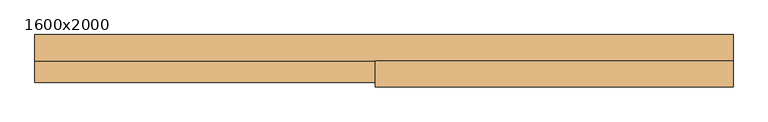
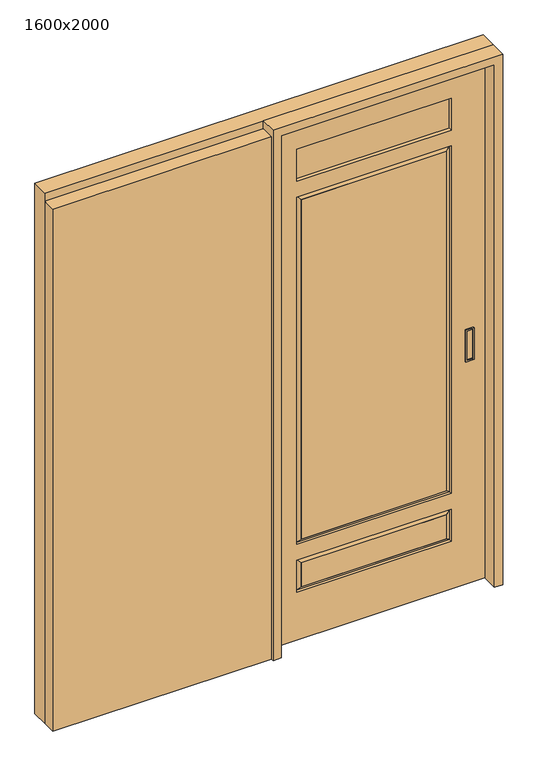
"""IFC4 building model written with IfcOpenShell, lengths in millimetres: door geometry, 片引戸CL2017 : 1600x2000."""

from ifc_helpers import new_model, si_unit, frame, origin, origin_with_axes, place, context, project, spatial, polyline, outline, extrude, faceted_brep, source, transform, mapped, element, save


def door_1600x2000_1f5bdc43(model_context):
    return source(origin(), model_context, "Body", "SolidModel", [
        faceted_brep([(730.0, -5.0, 960.0), (700.0, -5.0, 960.0), (700.0, -5.0, 840.0), (730.0, -5.0, 840.0), (705.0, -5.0, 955.0), (725.0, -5.0, 955.0), (725.0, -5.0, 845.0), (705.0, -5.0, 845.0), (730.0, 35.0, 960.0), (730.0, 35.0, 840.0), (700.0, 35.0, 840.0), (700.0, 35.0, 960.0), (705.0, 35.0, 845.0), (725.0, 35.0, 845.0), (725.0, 35.0, 955.0), (705.0, 35.0, 955.0), (705.0, -1.0, 955.0), (705.0, -1.0, 845.0), (705.0, 31.0, 845.0), (705.0, 31.0, 955.0), (725.0, -1.0, 955.0), (725.0, -1.0, 845.0), (725.0, 31.0, 845.0), (725.0, 31.0, 955.0)], [[[0, 1, 2, 3], [4, 5, 6, 7]], [[8, 9, 10, 11], [12, 13, 14, 15]], [[3, 9, 8, 0]], [[2, 10, 9, 3]], [[1, 11, 10, 2]], [[0, 8, 11, 1]], [[16, 4, 7, 17]], [[18, 12, 15, 19]], [[20, 21, 6, 5]], [[22, 23, 14, 13]], [[16, 20, 5, 4]], [[7, 6, 21, 17]], [[17, 21, 20, 16]], [[18, 22, 13, 12]], [[15, 14, 23, 19]], [[19, 23, 22, 18]]]),
        extrude(outline(polyline([(0.0, 770.0), (1970.0, 770.0), (1970.0, -20.0), (0.0, -20.0), (0.0, 770.0)]), holes=[polyline([(1730.0, 650.0), (1730.0, 100.0), (1850.0, 100.0), (1850.0, 650.0), (1730.0, 650.0)]), polyline([(300.0, 100.0), (300.0, 650.0), (180.0, 650.0), (180.0, 100.0), (300.0, 100.0)]), polyline([(360.0, 650.0), (360.0, 100.0), (1670.0, 100.0), (1670.0, 650.0), (360.0, 650.0)])]), frame((0.0, 0.0, 0.0), z_axis=(0.0, 1.0, 0.0), x_axis=(0.0, 0.0, 1.0)), (0.0, 0.0, 1.0), 30.0),
        extrude(outline(polyline([(650.0, 17.5), (650.0, 12.5), (100.0, 12.5), (100.0, 17.5), (650.0, 17.5)])), frame((0.0, 0.0, 1730.0), z_axis=(0.0, 0.0, 1.0), x_axis=(1.0, 0.0, 0.0)), (0.0, 0.0, 1.0), 120.0),
        extrude(outline(polyline([(635.0, 30.0), (635.0, 0.0), (115.0, 0.0), (115.0, 30.0), (635.0, 30.0)])), frame((0.0, 0.0, 195.0), z_axis=(0.0, 0.0, 1.0), x_axis=(1.0, 0.0, 0.0)), (0.0, 0.0, 1.0), 90.0),
        extrude(outline(polyline([(635.0, 30.0), (635.0, 0.0), (115.0, 0.0), (115.0, 30.0), (635.0, 30.0)])), frame((0.0, 0.0, 375.0), z_axis=(0.0, 0.0, 1.0), x_axis=(1.0, 0.0, 0.0)), (0.0, 0.0, 1.0), 1280.0),
        faceted_brep([(100.0, 20.0, 1670.0), (100.0, 20.0, 360.0), (100.0, 10.0, 360.0), (100.0, 10.0, 1670.0), (115.0, 30.0, 1655.0), (115.0, 30.0, 375.0), (115.0, 0.0, 1655.0), (115.0, 0.0, 375.0), (650.0, 20.0, 360.0), (650.0, 10.0, 360.0), (635.0, 30.0, 375.0), (635.0, 0.0, 375.0), (650.0, 20.0, 1670.0), (650.0, 10.0, 1670.0), (635.0, 30.0, 1655.0), (635.0, 0.0, 1655.0)], [[[0, 1, 2, 3]], [[4, 5, 1, 0]], [[6, 7, 5, 4]], [[3, 2, 7, 6]], [[1, 8, 9, 2]], [[5, 10, 8, 1]], [[7, 11, 10, 5]], [[2, 9, 11, 7]], [[8, 12, 13, 9]], [[10, 14, 12, 8]], [[11, 15, 14, 10]], [[9, 13, 15, 11]], [[12, 0, 3, 13]], [[14, 4, 0, 12]], [[15, 6, 4, 14]], [[13, 3, 6, 15]]]),
        faceted_brep([(115.0, 0.0, 195.0), (115.0, 0.0, 285.0), (100.0, 10.0, 300.0), (100.0, 10.0, 180.0), (115.0, 30.0, 195.0), (115.0, 30.0, 285.0), (100.0, 20.0, 180.0), (100.0, 20.0, 300.0), (635.0, 0.0, 285.0), (650.0, 10.0, 300.0), (635.0, 30.0, 285.0), (650.0, 20.0, 300.0), (635.0, 0.0, 195.0), (650.0, 10.0, 180.0), (635.0, 30.0, 195.0), (650.0, 20.0, 180.0)], [[[0, 1, 2, 3]], [[4, 5, 1, 0]], [[6, 7, 5, 4]], [[3, 2, 7, 6]], [[1, 8, 9, 2]], [[5, 10, 8, 1]], [[7, 11, 10, 5]], [[2, 9, 11, 7]], [[8, 12, 13, 9]], [[10, 14, 12, 8]], [[11, 15, 14, 10]], [[9, 13, 15, 11]], [[12, 0, 3, 13]], [[14, 4, 0, 12]], [[15, 6, 4, 14]], [[13, 3, 6, 15]]]),
        extrude(outline(polyline([(0.0, 800.0), (2000.0, 800.0), (2000.0, -20.0), (0.0, -20.0), (0.0, 10.0), (1970.0, 10.0), (1970.0, 770.0), (0.0, 770.0), (0.0, 800.0)])), frame((0.0, -60.0, 0.0), z_axis=(0.0, 1.0, 0.0), x_axis=(0.0, 0.0, 1.0)), (0.0, 0.0, 1.0), 60.0),
        extrude(outline(polyline([(0.0, 800.0), (2000.0, 800.0), (2000.0, -800.0), (0.0, -800.0), (0.0, -770.0), (1970.0, -770.0), (1970.0, 770.0), (0.0, 770.0), (0.0, 800.0)])), frame((0.0, 0.0, 0.0), z_axis=(0.0, 1.0, 0.0), x_axis=(0.0, 0.0, 1.0)), (0.0, 0.0, 1.0), 60.0),
        extrude(outline(polyline([(-20.0, 0.0), (-20.0, -50.0), (-800.0, -50.0), (-800.0, 0.0), (-20.0, 0.0)])), origin_with_axes(), (0.0, 0.0, 1.0), 1970.0),
    ])


if __name__ == "__main__":
    model = new_model("IFC4")
    model_context = context("Model", 3, world=origin())
    ifc_project = project(units=[si_unit("LENGTHUNIT", "METRE", prefix="MILLI")], contexts=[model_context])
    site = spatial("IfcSite", under=ifc_project)
    building = spatial("IfcBuilding", under=site)
    placement = place(None, origin())
    door_1600x2000_shape = door_1600x2000_1f5bdc43(model_context)
    element("IfcDoor", 1, ObjectType="片引戸CL2017 : 1600x2000", at=placement, inside=building, context=model_context, shape_type="MappedRepresentation", body=[
        mapped(door_1600x2000_shape, transform((0.0, 0.0, 0.0), x_axis=(1.0, 0.0, 0.0), y_axis=(0.0, 1.0, 0.0), z_axis=(0.0, 0.0, 1.0))),
    ])
    save(model, "model.ifc")
